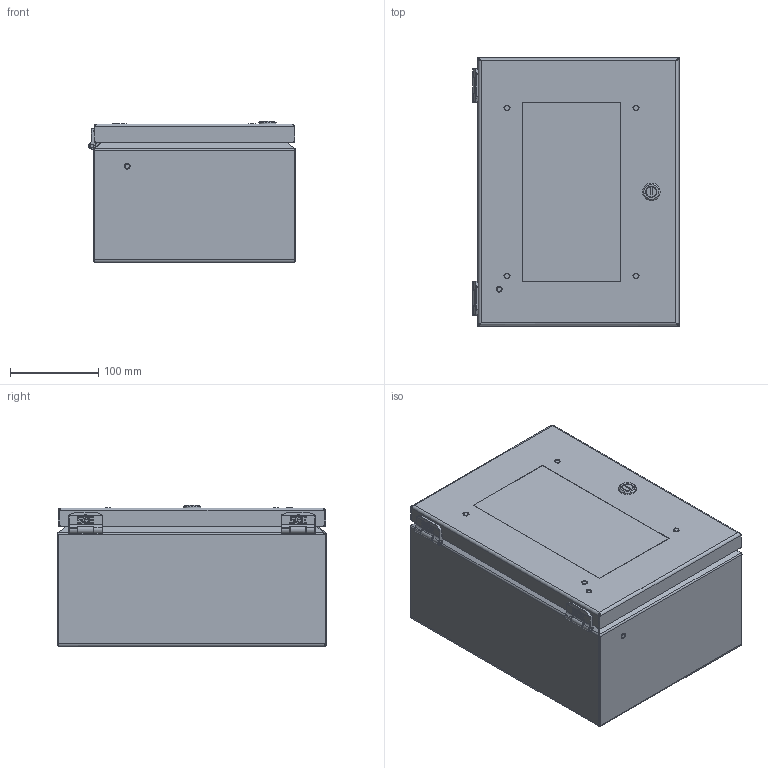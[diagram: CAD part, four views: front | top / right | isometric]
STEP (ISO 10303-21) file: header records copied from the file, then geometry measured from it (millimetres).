
FILE_DESCRIPTION((''),'2;1');
FILE_NAME('MODEL-097_ASM','2025-08-15T09:16:37',('johnh'),('SAGINAW CONTROL & ENGINEERING'),'CREO PARAMETRIC BY PTC INC, 2021284','CREO PARAMETRIC BY PTC INC, 2021284','');
FILE_SCHEMA(('AUTOMOTIVE_DESIGN { 1 0 10303 214 1 1 1 1 }'));
Length unit declared in the file: inch
Products named in the file (29): MODEL-097-BDY; 112643-BOX-LEAF; 112643-BOX-LEAF-STUD; 112643-BOX_ASM; 112643-DOOR-LEAF; 112643-DOOR-LEAF-STUD; 112643-DOOR_ASM; 112643-PIN; 112643_ASM; 113152; MODEL-097-DR; 100097; 100012; 112987_SHAFT; 112987_SCREW; 112987_CAM; 112987_INSERT; 112987_NUT; 112987_ASM; MODEL-097-LEX; 118622; 117899; 118662; MODEL-097-GSKT; 120706; CH-ELJ_SUBPANEL; 102479; CH-ELJ_SUBPANEL-SUBASSEMBLY_ASM; MODEL-097_ASM
Assembly tree (48 placements, depth 4):
  MODEL-097_ASM
    MODEL-097-BDY
    112643_ASM  x2
      112643-BOX_ASM
        112643-BOX-LEAF
        112643-BOX-LEAF-STUD
      112643-DOOR_ASM
        112643-DOOR-LEAF
        112643-DOOR-LEAF-STUD
      112643-PIN
    113152  x4
    MODEL-097-DR
    100097  x2
    100012  x4
    112987_ASM
      112987_SHAFT
      112987_SCREW
      112987_CAM
      112987_INSERT
      112987_NUT
    MODEL-097-LEX
    118622  x4
    117899  x4
    118662  x4
    MODEL-097-GSKT
    120706
    CH-ELJ_SUBPANEL-SUBASSEMBLY_ASM
      CH-ELJ_SUBPANEL
      102479  x4
Bounding box: 234.2 x 304.9 x 160.2 mm (x, y, z)
Volume: 798281.9 mm3; surface area: 831373.3 mm2
Topology: 46 solids, 48 shells, 3595 faces, 9243 edges, 5689 vertices
Faces by surface type: plane 1151, cylinder 1025, bspline 914, cone 365, torus 122, sphere 18
Entity records: 121490 total; most frequent: CARTESIAN_POINT 60933, ORIENTED_EDGE 9274, DIRECTION 7669, PRESENTATION_STYLE_ASSIGNMENT 4823, STYLED_ITEM 4813, EDGE_CURVE 4637, CURVE_STYLE 4563, VERTEX_POINT 2900
